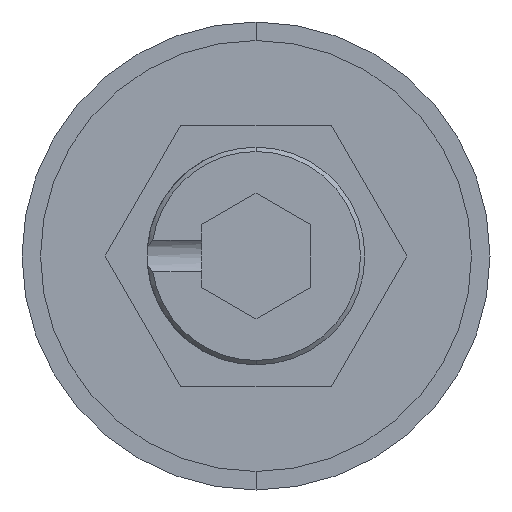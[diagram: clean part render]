
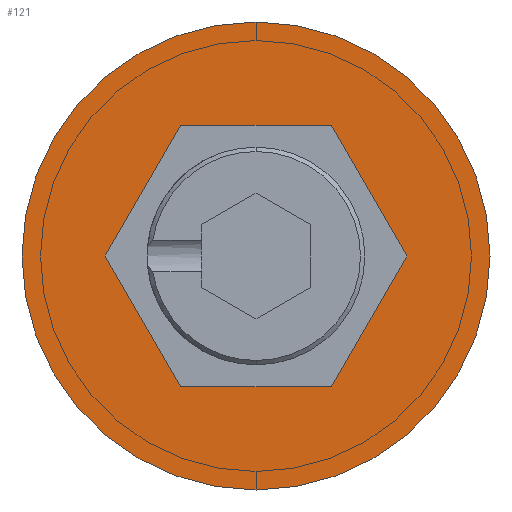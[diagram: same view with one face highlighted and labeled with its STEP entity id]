
A CAD part, front view. The second image highlights one B-rep face of the part: STEP entity #121.
In plain terms, the highlighted planar face has unit normal (0, -1, 0).
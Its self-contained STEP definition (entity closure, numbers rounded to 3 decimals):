
#36 = PLANE ( 'NONE',  #1216 ) ;
#39 = VECTOR ( 'NONE', #218, 1000. ) ;
#68 = LINE ( 'NONE', #482, #923 ) ;
#121 = ADVANCED_FACE ( 'NONE', ( #1990, #190 ), #36, .T. ) ;
#122 = VECTOR ( 'NONE', #1497, 1000. ) ;
#171 = LINE ( 'NONE', #860, #122 ) ;
#190 = FACE_OUTER_BOUND ( 'NONE', #2007, .T. ) ;
#192 = CARTESIAN_POINT ( 'NONE',  ( -3.464, 0., 6. ) ) ;
#202 = LINE ( 'NONE', #1064, #1111 ) ;
#218 = DIRECTION ( 'NONE',  ( -0.5, 0., -0.866 ) ) ;
#236 = AXIS2_PLACEMENT_3D ( 'NONE', #375, #510, #1628 ) ;
#255 = CARTESIAN_POINT ( 'NONE',  ( 0., 0., 0. ) ) ;
#304 = AXIS2_PLACEMENT_3D ( 'NONE', #255, #1106, #1781 ) ;
#305 = VERTEX_POINT ( 'NONE', #541 ) ;
#308 = DIRECTION ( 'NONE',  ( 0.5, 0., -0.866 ) ) ;
#359 = VERTEX_POINT ( 'NONE', #1896 ) ;
#375 = CARTESIAN_POINT ( 'NONE',  ( 0., 0., 0. ) ) ;
#414 = VERTEX_POINT ( 'NONE', #1360 ) ;
#429 = EDGE_CURVE ( 'NONE', #1851, #305, #202, .T. ) ;
#434 = DIRECTION ( 'NONE',  ( 1., 0., 0. ) ) ;
#482 = CARTESIAN_POINT ( 'NONE',  ( -6.928, 0., 0. ) ) ;
#510 = DIRECTION ( 'NONE',  ( 0., -1., 0. ) ) ;
#525 = ORIENTED_EDGE ( 'NONE', *, *, #1207, .F. ) ;
#541 = CARTESIAN_POINT ( 'NONE',  ( -3.464, 0., 6. ) ) ;
#542 = EDGE_CURVE ( 'NONE', #2043, #414, #2198, .T. ) ;
#600 = EDGE_CURVE ( 'NONE', #305, #1302, #1374, .T. ) ;
#775 = EDGE_CURVE ( 'NONE', #1645, #359, #1688, .T. ) ;
#788 = CARTESIAN_POINT ( 'NONE',  ( -3.464, 0., -6. ) ) ;
#829 = ORIENTED_EDGE ( 'NONE', *, *, #880, .F. ) ;
#860 = CARTESIAN_POINT ( 'NONE',  ( 6.928, 0., 0. ) ) ;
#868 = CIRCLE ( 'NONE', #304, 10.75 ) ;
#880 = EDGE_CURVE ( 'NONE', #896, #1851, #171, .T. ) ;
#884 = DIRECTION ( 'NONE',  ( 0., 0., -1. ) ) ;
#896 = VERTEX_POINT ( 'NONE', #1695 ) ;
#923 = VECTOR ( 'NONE', #308, 1000. ) ;
#973 = CARTESIAN_POINT ( 'NONE',  ( -3.464, 0., -6. ) ) ;
#1025 = DIRECTION ( 'NONE',  ( -1., 0., 0. ) ) ;
#1064 = CARTESIAN_POINT ( 'NONE',  ( 3.464, 0., 6. ) ) ;
#1070 = CARTESIAN_POINT ( 'NONE',  ( 0., 0., -10.75 ) ) ;
#1106 = DIRECTION ( 'NONE',  ( 0., -1., 0. ) ) ;
#1111 = VECTOR ( 'NONE', #1025, 1000. ) ;
#1140 = ORIENTED_EDGE ( 'NONE', *, *, #2010, .F. ) ;
#1186 = EDGE_LOOP ( 'NONE', ( #1314, #1140, #1401, #1266, #829, #525 ) ) ;
#1207 = EDGE_CURVE ( 'NONE', #359, #896, #2137, .T. ) ;
#1216 = AXIS2_PLACEMENT_3D ( 'NONE', #2168, #2060, #884 ) ;
#1266 = ORIENTED_EDGE ( 'NONE', *, *, #429, .F. ) ;
#1302 = VERTEX_POINT ( 'NONE', #1452 ) ;
#1314 = ORIENTED_EDGE ( 'NONE', *, *, #775, .F. ) ;
#1360 = CARTESIAN_POINT ( 'NONE',  ( 0., 0., 10.75 ) ) ;
#1374 = LINE ( 'NONE', #192, #39 ) ;
#1401 = ORIENTED_EDGE ( 'NONE', *, *, #600, .F. ) ;
#1452 = CARTESIAN_POINT ( 'NONE',  ( -6.928, 0., 0. ) ) ;
#1497 = DIRECTION ( 'NONE',  ( -0.5, 0., 0.866 ) ) ;
#1514 = EDGE_CURVE ( 'NONE', #414, #2043, #868, .T. ) ;
#1628 = DIRECTION ( 'NONE',  ( 0., 0., -1. ) ) ;
#1645 = VERTEX_POINT ( 'NONE', #973 ) ;
#1684 = VECTOR ( 'NONE', #1913, 1000. ) ;
#1688 = LINE ( 'NONE', #788, #2185 ) ;
#1695 = CARTESIAN_POINT ( 'NONE',  ( 6.928, 0., 0. ) ) ;
#1719 = ORIENTED_EDGE ( 'NONE', *, *, #542, .T. ) ;
#1724 = ORIENTED_EDGE ( 'NONE', *, *, #1514, .T. ) ;
#1781 = DIRECTION ( 'NONE',  ( 0., 0., -1. ) ) ;
#1851 = VERTEX_POINT ( 'NONE', #2067 ) ;
#1896 = CARTESIAN_POINT ( 'NONE',  ( 3.464, 0., -6. ) ) ;
#1905 = CARTESIAN_POINT ( 'NONE',  ( 3.464, 0., -6. ) ) ;
#1913 = DIRECTION ( 'NONE',  ( 0.5, 0., 0.866 ) ) ;
#1990 = FACE_BOUND ( 'NONE', #1186, .T. ) ;
#2007 = EDGE_LOOP ( 'NONE', ( #1719, #1724 ) ) ;
#2010 = EDGE_CURVE ( 'NONE', #1302, #1645, #68, .T. ) ;
#2043 = VERTEX_POINT ( 'NONE', #1070 ) ;
#2060 = DIRECTION ( 'NONE',  ( 0., -1., 0. ) ) ;
#2067 = CARTESIAN_POINT ( 'NONE',  ( 3.464, 0., 6. ) ) ;
#2137 = LINE ( 'NONE', #1905, #1684 ) ;
#2168 = CARTESIAN_POINT ( 'NONE',  ( 0., 0., 0. ) ) ;
#2185 = VECTOR ( 'NONE', #434, 1000. ) ;
#2198 = CIRCLE ( 'NONE', #236, 10.75 ) ;
